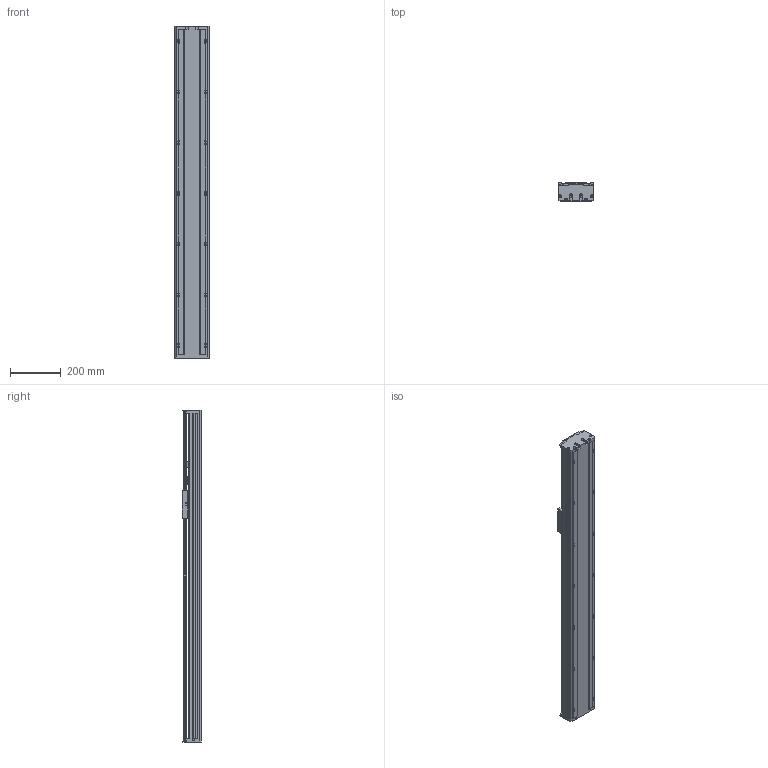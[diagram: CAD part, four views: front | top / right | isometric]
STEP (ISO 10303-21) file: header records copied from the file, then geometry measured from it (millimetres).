
FILE_DESCRIPTION(/* description */ (''),/* implementation_level */ '2;1');
FILE_NAME(/* name */ 'TKA136-FI-850_asm1.stp',/* time_stamp */ '2016-05-07T10:43:59+08:00',/* author */ (''),/* organization */ (''),/* preprocessor_version */ 'ST-DEVELOPER v15',/* originating_system */ 'SIEMENS PLM Software NX 8.5',/* authorisation */ '');
FILE_SCHEMA (('AUTOMOTIVE_DESIGN { 1 0 10303 214 3 1 1 1 }'));
Length unit declared in the file: millimetre
Products named in the file (3): 100-02; 100-01; TKA136-FI-850_asm1
Assembly tree (2 placements, depth 2):
  TKA136-FI-850_asm1
    100-01
    100-02
Bounding box: 136 x 75 x 1309 mm (x, y, z)
Volume: 3971704.7 mm3; surface area: 1501024.9 mm2
Topology: 2 solids, 12 shells, 973 faces, 2828 edges, 1855 vertices
Faces by surface type: cylinder 485, plane 438, cone 50
Full cylindrical faces by diameter (mm): 2.5 x4, 3.3 x8, 4.2 x8, 4.5 x20, 5 x12, 5.5 x14, 8 x20, 10 x9, 10.5 x8, 11.6 x1, 12 x8, 15 x3, 16 x5, 24 x3, 26 x1, 28 x1, 46 x1
Entity records: 34319 total; most frequent: CARTESIAN_POINT 9049, ORIENTED_EDGE 5212, DIRECTION 5156, EDGE_CURVE 2606, AXIS2_PLACEMENT_3D 1916, VERTEX_POINT 1807, LINE 1324, VECTOR 1324
